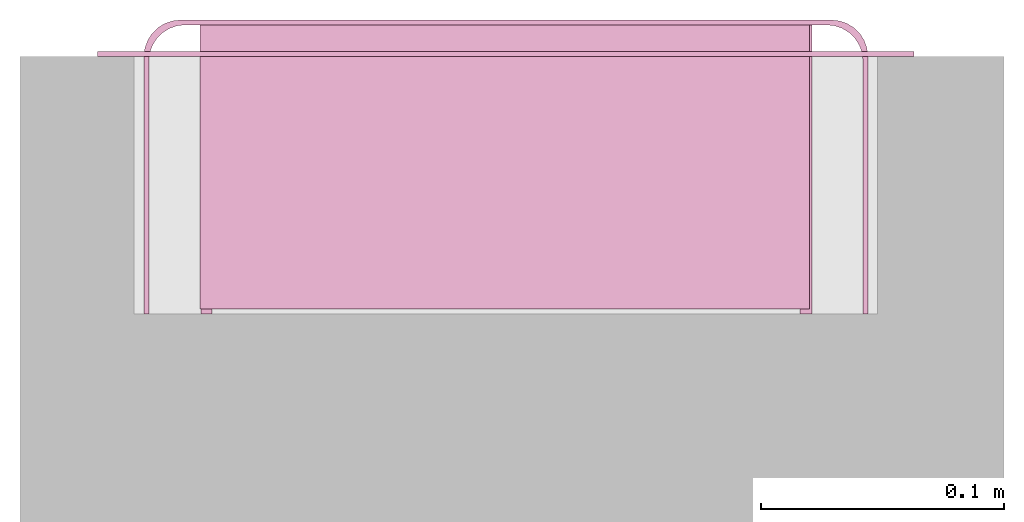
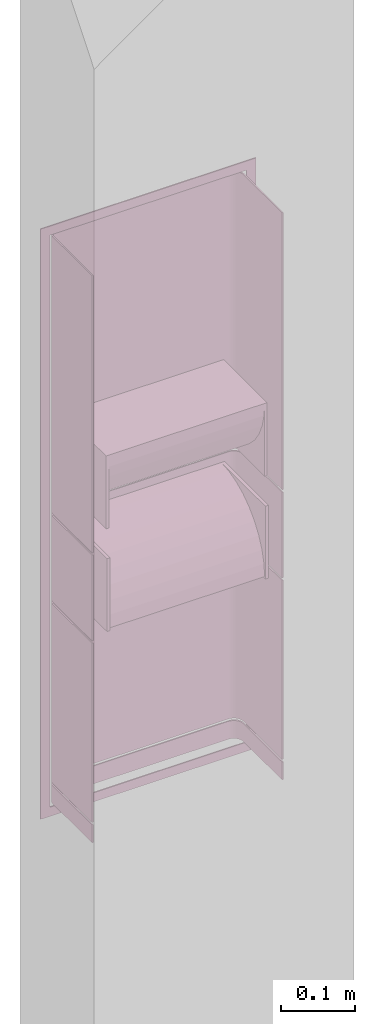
# One storey, part 2 of 2: 1 furnishing, 4 openings.
"""IFC2X3 building model written with IfcOpenShell, lengths in millimetres."""

from ifc_helpers import new_model, entity, si_unit, converted_unit, derived_unit, direction, frame, frame_2d, origin, origin_2d_with_axis, place, context, subcontext, project, spatial, polyline, circle_curve, parameter, trimmed, segment, composite_curve, rectangle, circle, outline, extrude, source, transform, mapped, type_object, type_shapes, element, save


model = new_model("IFC2X3")

# Units and contexts
model_context = context("Model", 3, precision=0.01, world=origin(), true_north=direction((6.12303176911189e-17, 1.0)))
context_of_model = context(None, 3, precision=0.01, world=origin(), true_north=direction((6.12303176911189e-17, 1.0)))
body_context = subcontext(model_context, "Body", "Model", "MODEL_VIEW")
ifc_project = project(units=[si_unit("LENGTHUNIT", "METRE", prefix="MILLI"), si_unit("AREAUNIT", "SQUARE_METRE"), si_unit("VOLUMEUNIT", "CUBIC_METRE"), converted_unit("PLANEANGLEUNIT", "DEGREE", entity("IfcRatioMeasure", 0.0174532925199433), si_unit("PLANEANGLEUNIT", "RADIAN"), dimensions=[0, 0, 0, 0, 0, 0, 0]), si_unit("MASSUNIT", "GRAM", prefix="KILO"), si_unit("TIMEUNIT", "SECOND"), si_unit("FREQUENCYUNIT", "HERTZ"), si_unit("THERMODYNAMICTEMPERATUREUNIT", "DEGREE_CELSIUS"), derived_unit("THERMALTRANSMITTANCEUNIT", [(si_unit("MASSUNIT", "GRAM", prefix="KILO"), 1), (si_unit("THERMODYNAMICTEMPERATUREUNIT", "KELVIN"), -1), (si_unit("TIMEUNIT", "SECOND"), -3)]), derived_unit("VOLUMETRICFLOWRATEUNIT", [(si_unit("LENGTHUNIT", "METRE"), 3), (si_unit("TIMEUNIT", "SECOND"), -1)]), si_unit("ELECTRICCURRENTUNIT", "AMPERE"), si_unit("ELECTRICVOLTAGEUNIT", "VOLT"), si_unit("POWERUNIT", "WATT"), si_unit("FORCEUNIT", "NEWTON", prefix="KILO"), si_unit("ILLUMINANCEUNIT", "LUX"), si_unit("LUMINOUSFLUXUNIT", "LUMEN"), si_unit("LUMINOUSINTENSITYUNIT", "CANDELA"), si_unit("PRESSUREUNIT", "PASCAL")], contexts=[model_context, context_of_model])

# Site, building, storey
site_placement = place(None, origin())
site = spatial("IfcSite", under=ifc_project, at=site_placement, Name="Default", CompositionType="ELEMENT")
building_placement = place(site_placement, origin())
building = spatial("IfcBuilding", under=site, at=building_placement, CompositionType="ELEMENT")
storey_placement = place(building_placement, origin())
storey = spatial("IfcBuildingStorey", under=building, at=storey_placement, Name="Level 1", CompositionType="ELEMENT", Elevation=0.0)

# Furnishing, openings
furniture_type = type_object("IfcFurnitureType", Name="d_line_Washroom_RecessedSanitaryPanels_PaperTowelDispenser_With_SquareOpeningWasteBin_PanelSize6", AssemblyPlace="NOTDEFINED")
shared_shape = source(origin(), body_context, "Body", "SweptSolid", [
    extrude(rectangle(XDim=118.999999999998, YDim=5.0, at=frame_2d((0.0, 8.43769498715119e-15), x_axis=(1.0, 0.0))), frame((291.500000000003, 59.4999999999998, 358.912956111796), z_axis=(0.0, 0.0, 1.0), x_axis=(0.0, 1.0, 0.0)), (0.0, 0.0, 1.0), 120.0),
    extrude(rectangle(XDim=118.999999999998, YDim=4.55501180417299, at=origin_2d_with_axis()), frame((44.7224940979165, 59.4999999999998, 358.912956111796), z_axis=(0.0, 0.0, 1.0), x_axis=(0.0, 1.0, 0.0)), (0.0, 0.0, 1.0), 120.0),
    extrude(outline(composite_curve([segment(polyline([(-57.0, 58.0), (-59.0, 58.0)]), True, "CONTINUOUS"), segment(trimmed(circle_curve(frame_2d((58.0, 58.0), x_axis=(1.0, 0.0)), 117.000000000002), [parameter(180.0)], [parameter(270.0)], True, "PARAMETER"), True, "CONTINUOUS"), segment(polyline([(58.0, -59.0), (58.0, -57.0)]), True, "CONTINUOUS"), segment(trimmed(circle_curve(frame_2d((58.0, 58.0), x_axis=(1.0, 0.0)), 115.000000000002), [parameter(180.0)], [parameter(270.0)], True, "PARAMETER"), False, "CONTINUOUS")], self_intersect=False)), frame((47.0, 61.0, 419.912956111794), z_axis=(-1.0, 0.0, 0.0), x_axis=(0.0, 1.0, 0.0)), (0.0, 0.0, -1.0), 242.0),
    extrude(rectangle(XDim=116.982904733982, YDim=5.0, at=frame_2d((0.0, 8.43769498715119e-15), x_axis=(1.0, 0.0))), frame((44.500000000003, 60.5085476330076, 527.0), z_axis=(0.0, 0.0, 1.0), x_axis=(0.0, 1.0, 0.0)), (0.0, 0.0, 1.0), 120.000000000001),
    extrude(rectangle(XDim=116.982904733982, YDim=3.94498313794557, at=origin_2d_with_axis()), frame((290.972491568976, 60.5085476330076, 527.0), z_axis=(0.0, 0.0, 1.0), x_axis=(0.0, 1.0, 0.0)), (0.0, 0.0, 1.0), 120.000000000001),
    extrude(outline(composite_curve([segment(polyline([(-76.3361825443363, 38.0), (38.6638174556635, 38.0)]), True, "CONTINUOUS"), segment(polyline([(38.6638174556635, 38.0), (38.6638174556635, 40.0)]), True, "CONTINUOUS"), segment(polyline([(38.6638174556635, 40.0), (-78.3190872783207, 40.0)]), True, "CONTINUOUS"), segment(trimmed(circle_curve(frame_2d((38.6638174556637, 38.0), x_axis=(1.0, 0.0)), 117.0), [parameter(179.020537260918)], [parameter(270.0)], True, "PARAMETER"), True, "CONTINUOUS"), segment(polyline([(38.6638174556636, -79.0), (38.6638174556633, -77.0)]), True, "CONTINUOUS"), segment(trimmed(circle_curve(frame_2d((38.6638174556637, 38.0), x_axis=(1.0, 0.0)), 115.0), [parameter(180.0)], [parameter(270.0)], True, "PARAMETER"), False, "CONTINUOUS")], self_intersect=False)), frame((47.0, 80.3361825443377, 607.0), z_axis=(1.0, 0.0, 0.0), x_axis=(0.0, 1.0, 0.0)), (0.0, 0.0, 1.0), 242.0),
    extrude(outline(composite_curve([segment(polyline([(-147.0, -29.0), (-147.0, 75.0)]), True, "CONTINUOUS"), segment(polyline([(-147.0, 75.0), (-149.0, 75.0)]), True, "CONTINUOUS"), segment(polyline([(-149.0, 75.0), (-149.0, -31.0)]), True, "CONTINUOUS"), segment(trimmed(circle_curve(frame_2d((-134.0, -31.0), x_axis=(1.0, 0.0)), 15.0), [parameter(180.0)], [parameter(270.0)], True, "PARAMETER"), True, "CONTINUOUS"), segment(polyline([(-134.0, -46.0), (134.0, -46.0)]), True, "CONTINUOUS"), segment(trimmed(circle_curve(frame_2d((134.0, -31.0), x_axis=(1.0, 0.0)), 15.0), [parameter(270.000000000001)], [parameter(8.65110873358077e-13)], True, "PARAMETER"), True, "CONTINUOUS"), segment(polyline([(149.0, -31.0), (149.0, 75.0)]), True, "CONTINUOUS"), segment(polyline([(149.0, 75.0), (147.0, 75.0)]), True, "CONTINUOUS"), segment(polyline([(147.0, 75.0), (147.0, -29.0)]), True, "CONTINUOUS"), segment(trimmed(circle_curve(frame_2d((132.0, -29.0), x_axis=(1.0, 0.0)), 15.0), [parameter(269.999999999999)], [parameter(359.999999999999)], True, "PARAMETER"), False, "CONTINUOUS"), segment(polyline([(132.0, -44.0), (-132.0, -44.0)]), True, "CONTINUOUS"), segment(trimmed(circle_curve(frame_2d((-132.0, -29.0), x_axis=(1.0, 0.0)), 15.0), [parameter(180.0)], [parameter(269.999999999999)], True, "PARAMETER"), False, "CONTINUOUS")], self_intersect=False)), frame((168.0, 75.0, 496.62830217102), z_axis=(0.0, 0.0, -1.0), x_axis=(1.0, 0.0, 0.0)), (0.0, 0.0, -1.0), 456.371697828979),
    extrude(outline(composite_curve([segment(polyline([(-147.0, -29.0), (-147.0, 75.0)]), True, "CONTINUOUS"), segment(polyline([(-147.0, 75.0), (-149.0, 75.0)]), True, "CONTINUOUS"), segment(polyline([(-149.0, 75.0), (-149.0, -31.0)]), True, "CONTINUOUS"), segment(trimmed(circle_curve(frame_2d((-134.0, -31.0), x_axis=(1.0, 0.0)), 15.0), [parameter(180.0)], [parameter(270.0)], True, "PARAMETER"), True, "CONTINUOUS"), segment(polyline([(-134.0, -46.0), (134.0, -46.0)]), True, "CONTINUOUS"), segment(trimmed(circle_curve(frame_2d((134.0, -31.0), x_axis=(1.0, 0.0)), 15.0), [parameter(270.000000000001)], [parameter(8.65110873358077e-13)], True, "PARAMETER"), True, "CONTINUOUS"), segment(polyline([(149.0, -31.0), (149.0, 75.0)]), True, "CONTINUOUS"), segment(polyline([(149.0, 75.0), (147.0, 75.0)]), True, "CONTINUOUS"), segment(polyline([(147.0, 75.0), (147.0, -29.0)]), True, "CONTINUOUS"), segment(trimmed(circle_curve(frame_2d((132.0, -29.0), x_axis=(1.0, 0.0)), 15.0), [parameter(269.999999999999)], [parameter(359.999999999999)], True, "PARAMETER"), False, "CONTINUOUS"), segment(polyline([(132.0, -44.0), (-132.0, -44.0)]), True, "CONTINUOUS"), segment(trimmed(circle_curve(frame_2d((-132.0, -29.0), x_axis=(1.0, 0.0)), 15.0), [parameter(180.0)], [parameter(269.999999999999)], True, "PARAMETER"), False, "CONTINUOUS")], self_intersect=False)), frame((168.0, 75.0, 351.62830217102), z_axis=(0.0, 0.0, -1.0), x_axis=(1.0, 0.0, 0.0)), (0.0, 0.0, -1.0), 140.999999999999),
    extrude(outline(composite_curve([segment(polyline([(-147.0, -29.0), (-147.0, 75.0)]), True, "CONTINUOUS"), segment(polyline([(-147.0, 75.0), (-149.0, 75.0)]), True, "CONTINUOUS"), segment(polyline([(-149.0, 75.0), (-149.0, -31.0)]), True, "CONTINUOUS"), segment(trimmed(circle_curve(frame_2d((-134.0, -31.0), x_axis=(1.0, 0.0)), 15.0), [parameter(180.0)], [parameter(270.0)], True, "PARAMETER"), True, "CONTINUOUS"), segment(polyline([(-134.0, -46.0), (134.0, -46.0)]), True, "CONTINUOUS"), segment(trimmed(circle_curve(frame_2d((134.0, -31.0), x_axis=(1.0, 0.0)), 15.0), [parameter(270.000000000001)], [parameter(8.65110873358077e-13)], True, "PARAMETER"), True, "CONTINUOUS"), segment(polyline([(149.0, -31.0), (149.0, 75.0)]), True, "CONTINUOUS"), segment(polyline([(149.0, 75.0), (147.0, 75.0)]), True, "CONTINUOUS"), segment(polyline([(147.0, 75.0), (147.0, -29.0)]), True, "CONTINUOUS"), segment(trimmed(circle_curve(frame_2d((132.0, -29.0), x_axis=(1.0, 0.0)), 15.0), [parameter(269.999999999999)], [parameter(359.999999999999)], True, "PARAMETER"), False, "CONTINUOUS"), segment(polyline([(132.0, -44.0), (-132.0, -44.0)]), True, "CONTINUOUS"), segment(trimmed(circle_curve(frame_2d((-132.0, -29.0), x_axis=(1.0, 0.0)), 15.0), [parameter(180.0)], [parameter(269.999999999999)], True, "PARAMETER"), False, "CONTINUOUS")], self_intersect=False)), frame((168.0, 75.0, 19.1283021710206), z_axis=(0.0, 0.0, -1.0), x_axis=(1.0, 0.0, 0.0)), (0.0, 0.0, -1.0), 29.5000000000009),
    extrude(outline(composite_curve([segment(polyline([(-147.0, -29.0), (-147.0, 75.0)]), True, "CONTINUOUS"), segment(polyline([(-147.0, 75.0), (-149.0, 75.0)]), True, "CONTINUOUS"), segment(polyline([(-149.0, 75.0), (-149.0, -31.0)]), True, "CONTINUOUS"), segment(trimmed(circle_curve(frame_2d((-134.0, -31.0), x_axis=(1.0, 0.0)), 15.0), [parameter(180.0)], [parameter(270.0)], True, "PARAMETER"), True, "CONTINUOUS"), segment(polyline([(-134.0, -46.0), (134.0, -46.0)]), True, "CONTINUOUS"), segment(trimmed(circle_curve(frame_2d((134.0, -31.0), x_axis=(1.0, 0.0)), 15.0), [parameter(270.000000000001)], [parameter(8.65110873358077e-13)], True, "PARAMETER"), True, "CONTINUOUS"), segment(polyline([(149.0, -31.0), (149.0, 75.0)]), True, "CONTINUOUS"), segment(polyline([(149.0, 75.0), (147.0, 75.0)]), True, "CONTINUOUS"), segment(polyline([(147.0, 75.0), (147.0, -29.0)]), True, "CONTINUOUS"), segment(trimmed(circle_curve(frame_2d((132.0, -29.0), x_axis=(1.0, 0.0)), 15.0), [parameter(269.999999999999)], [parameter(359.999999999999)], True, "PARAMETER"), False, "CONTINUOUS"), segment(polyline([(132.0, -44.0), (-132.0, -44.0)]), True, "CONTINUOUS"), segment(trimmed(circle_curve(frame_2d((-132.0, -29.0), x_axis=(1.0, 0.0)), 15.0), [parameter(180.0)], [parameter(269.999999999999)], True, "PARAMETER"), False, "CONTINUOUS")], self_intersect=False)), frame((168.0, 75.0, 52.6283021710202), z_axis=(0.0, 0.0, -1.0), x_axis=(1.0, 0.0, 0.0)), (0.0, 0.0, -1.0), 295.0),
    extrude(outline(polyline([(-486.0, -168.0), (486.0, -168.0), (486.0, 168.0), (-486.0, 168.0), (-486.0, -168.0)]), holes=[polyline([(-471.0, 153.0), (471.0, 153.0), (471.0, -153.0), (-471.0, -153.0), (-471.0, 153.0)])]), frame((168.0, 106.0, 486.0), z_axis=(0.0, 1.0, 0.0), x_axis=(0.0, 0.0, 1.0)), (0.0, 0.0, 1.0), 2.0),
])
type_shapes(furniture_type, [shared_shape])
furnishing_placement = place(storey_placement, frame((-755.326460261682, 61.8381846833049, 985.0)))
furnishing = element("IfcFurnishingElement", 1, at=furnishing_placement, inside=storey, type_object=furniture_type, Name="14710006001b:d_line_Washroom_RecessedSanitaryPanels_PaperTowelDispenser_With_SquareOpeningWasteBin_PanelSize6", ObjectType="d_line_Washroom_RecessedSanitaryPanels_PaperTowelDispenser_With_SquareOpeningWasteBin_PanelSize6", context=body_context, shape_type="MappedRepresentation", body=[
    mapped(shared_shape, transform((0.0, 0.0, 0.0), scale=1.0)),
])
opening_1_placement = place(storey_placement, frame((-755.326460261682, 61.8381846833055, 985.0)))
element("IfcOpeningElement", 2, at=opening_1_placement, cuts=furnishing, Name="14710006001b:d_line_Washroom_RecessedSanitaryPanels_PaperTowelDispenser_With_SquareOpeningWasteBin_PanelSize6:1", ObjectType="Opening", context=body_context, shape_type="SweptSolid", body=[
    extrude(rectangle(XDim=115.000000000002, YDim=242.0, at=frame_2d((1.35003119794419e-13, 0.0), x_axis=(1.0, 0.0))), frame((51206.4000000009, 1941.8000000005, -298823.587043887), z_axis=(0.0, 1.0, 0.0), x_axis=(0.0, 0.0, 1.0)), (0.0, 0.0, 1.0), 1.99999999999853),
])
opening_2_placement = place(storey_placement, frame((-755.326460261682, 61.8381846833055, 985.0)))
element("IfcOpeningElement", 3, at=opening_2_placement, cuts=furnishing, Name="14710006001b:d_line_Washroom_RecessedSanitaryPanels_PaperTowelDispenser_With_SquareOpeningWasteBin_PanelSize6:2", ObjectType="Opening", context=body_context, shape_type="SweptSolid", body=[
    extrude(circle(Radius=20.0, at=origin_2d_with_axis()), frame((51262.7778313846, 1941.8000000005, -298551.498456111), z_axis=(0.0, 1.0, 0.0), x_axis=(1.0, 0.0, 0.0)), (0.0, 0.0, 1.0), 1.99999999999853),
])
opening_3_placement = place(storey_placement, frame((-755.326460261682, 61.8381846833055, 985.0)))
element("IfcOpeningElement", 4, at=opening_3_placement, cuts=furnishing, Name="14710006001b:d_line_Washroom_RecessedSanitaryPanels_PaperTowelDispenser_With_SquareOpeningWasteBin_PanelSize6:3", ObjectType="Opening", context=body_context, shape_type="SweptSolid", body=[
    extrude(circle(Radius=20.0, at=origin_2d_with_axis()), frame((51150.0221686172, 1941.8000000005, -298551.498456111), z_axis=(0.0, 1.0, 0.0), x_axis=(1.0, 0.0, 0.0)), (0.0, 0.0, 1.0), 1.99999999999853),
])
opening_4_placement = place(storey_placement, frame((-755.326460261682, 61.8381846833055, 985.0)))
element("IfcOpeningElement", 5, at=opening_4_placement, cuts=furnishing, Name="14710006001b:d_line_Washroom_RecessedSanitaryPanels_PaperTowelDispenser_With_SquareOpeningWasteBin_PanelSize6:4", ObjectType="Opening", context=body_context, shape_type="SweptSolid", body=[
    extrude(rectangle(XDim=115.0, YDim=242.0, at=frame_2d((0.0, 1.35003119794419e-13), x_axis=(0.0, 1.0))), frame((51206.4000000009, 1941.8000000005, -298655.499999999), z_axis=(0.0, 1.0, 0.0), x_axis=(-1.0, 0.0, 0.0)), (0.0, 0.0, 1.0), 1.99999999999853),
])

save(model, "model.ifc")
